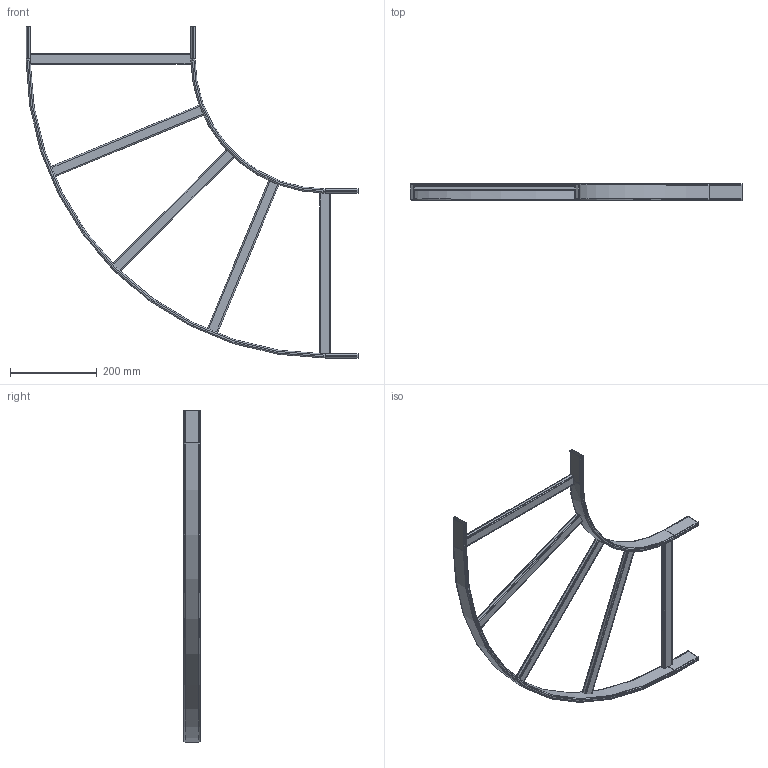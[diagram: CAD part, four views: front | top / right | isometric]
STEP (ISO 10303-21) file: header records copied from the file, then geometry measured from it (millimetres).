
FILE_DESCRIPTION (( 'STEP AP203' ), '1' );
FILE_NAME ('l90hb15w.STEP', '2022-07-08T14:29:40', ( '' ), ( '' ), 'SwSTEP 2.0', 'SolidWorks 2020', '' );
FILE_SCHEMA (( 'CONFIG_CONTROL_DESIGN' ));
Length unit declared in the file: inch
Products named in the file (1): l90hb15w
Bounding box: 766.76 x 38.1 x 766.76 mm (x, y, z)
Volume: 396511.3 mm3; surface area: 568702 mm2
Topology: 5 solids, 6 shells, 193 faces, 480 edges, 298 vertices
Faces by surface type: cylinder 89, plane 88, torus 16
Entity records: 6491 total; most frequent: CARTESIAN_POINT 1812, ORIENTED_EDGE 960, DIRECTION 960, EDGE_CURVE 480, AXIS2_PLACEMENT_3D 346, VERTEX_POINT 298, LINE 268, VECTOR 268
